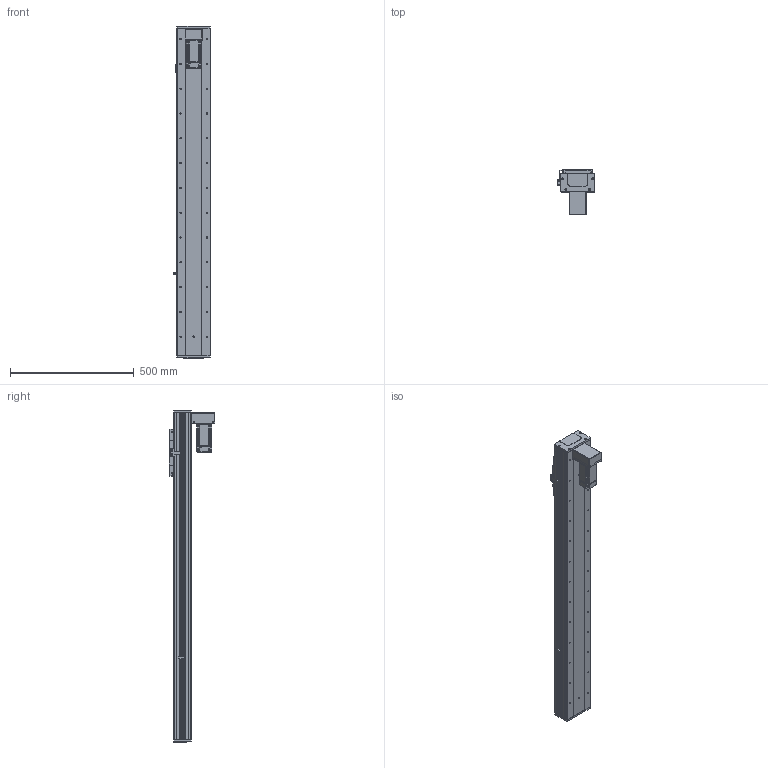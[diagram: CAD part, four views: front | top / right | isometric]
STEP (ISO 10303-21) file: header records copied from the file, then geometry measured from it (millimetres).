
FILE_DESCRIPTION (( 'STEP AP203' ), '1' );
FILE_NAME ('RY140F-L2020-300-BK.SLDASM_1050.step', '2021-03-02T08:27:18', ( '盈信电脑' ), ( '东莞市道滘镇水果街19号' ), 'SwSTEP 2.0', 'SolidWorks 2012', '' );
FILE_SCHEMA (( 'CONFIG_CONTROL_DESIGN' ));
Length unit declared in the file: millimetre
Products named in the file (21): RY140F-L2020-300-BK.SLDASM_1050; RY140F-直连型材铝滑块(16丝杆); 滅袉蝶18-10; RY140F-詩湍嘐隅輸; RY140F-狟殏萇儂欶(400W); RY140F-詩湍揤え; 侐源滅袉蝶; RY140F-672覜茼んえ; RY140F-狟殏萇儂啣(400W M5); 侂狟400W侜督萇儂; 覜茼ん672; 15; RY140F-后盖板(铝件）; RY140F-詩湍幗謫粣; RY140F-滅鳥奻裔; 藻笠沭; RY100F-詩湍揤踡謫; RY140F-直连型材铝滑块连接座; RY140F-300-BK蛌殏詩湍_1050; RY140F-300-BK倰第奻裔啣_1050; RY140F-300-BK倰第菁釱_1050
Assembly tree (26 placements, depth 3):
  RY140F-L2020-300-BK.SLDASM_1050
    RY140F-300-BK倰第菁釱_1050
    RY140F-300-BK倰第奻裔啣_1050  x2
    RY140F-300-BK蛌殏詩湍_1050
    RY140F-直连型材铝滑块连接座
    RY140F-滅鳥奻裔
    RY140F-詩湍幗謫粣
    藻笠沭  x2
    RY100F-詩湍揤踡謫
    RY140F-后盖板(铝件）  x2
    侂狟400W侜督萇儂
      15
    覜茼ん672
    RY140F-672覜茼んえ
    RY140F-詩湍揤え  x2
    侐源滅袉蝶  x2
    RY140F-狟殏萇儂啣(400W M5)
    RY140F-狟殏萇儂欶(400W)
    RY140F-詩湍嘐隅輸
    滅袉蝶18-10  x2
    RY140F-直连型材铝滑块(16丝杆)
Bounding box: 148.7 x 184.5 x 1339 mm (x, y, z)
Volume: 4956508.5 mm3; surface area: 1770014.1 mm2
Topology: 25 solids, 25 shells, 2080 faces, 5684 edges, 3610 vertices
Faces by surface type: cylinder 1015, plane 811, cone 228, bspline 22, torus 4
Entity records: 65304 total; most frequent: CARTESIAN_POINT 13649, DIRECTION 10467, ORIENTED_EDGE 10140, EDGE_CURVE 5070, AXIS2_PLACEMENT_3D 3756, VERTEX_POINT 3314, VECTOR 2955, LINE 2955
